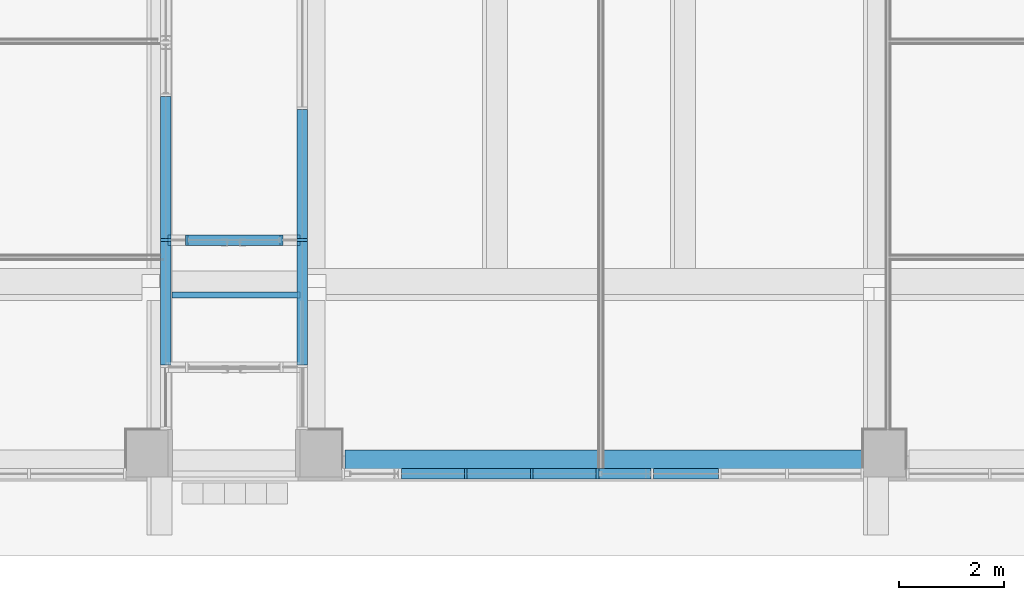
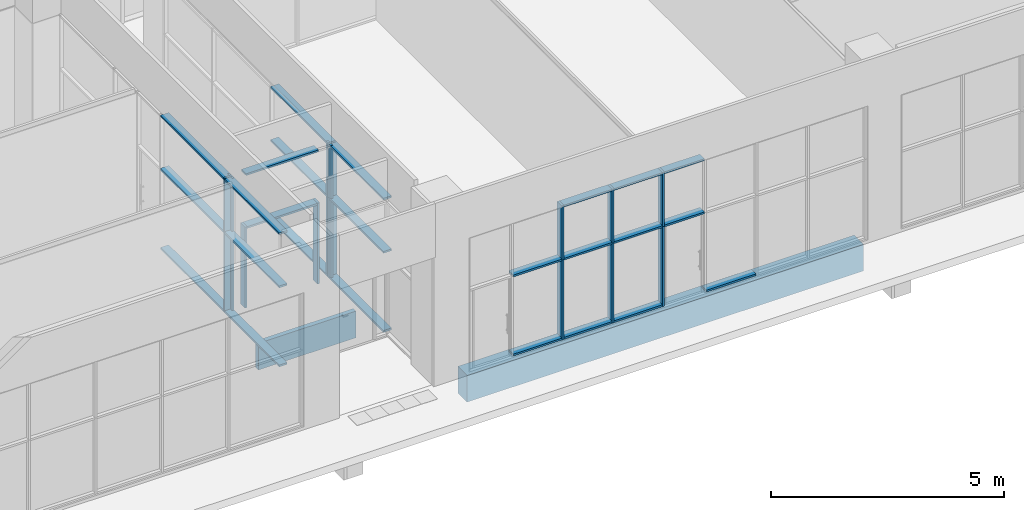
# One storey, part 5 of 100: 41 members, 2 beams, 4 elements without a shape of their own.
"""IFC2X3 building model written with IfcOpenShell, lengths in millimetres."""

import ifcopenshell
import ifcopenshell.guid

model = None  # the IFC model being written
_history = None  # IfcOwnerHistory: only IFC2X3 demands one
_inside = {}  # id of a spatial element -> (the spatial element, [elements in it])
_under = {}  # id of a project, library or spatial element -> (it, [spatial elements below it])
_declared = {}  # id of a project -> (the project, [libraries it declares])
_typed = {}  # id of a type object -> (the type object, [elements of that type])
_made_of = {}  # id of a material, layer set ... -> (it, [elements and type objects made of it])


def new_model(schema):
    """Start an empty IFC model of exactly this schema.

    Asked for "IFC4X3", IfcOpenShell would pick the latest addendum, in which some entities
    have other attributes; the version numbers below select the first issue.
    IFC2X3 requires an IfcOwnerHistory on every rooted entity: one is made here for all.
    """
    global model, _history
    if schema == "IFC4X3":
        model = ifcopenshell.file(schema_version=(4, 3, 0, 0))
    else:
        model = ifcopenshell.file(schema=schema)
    _inside.clear()
    _under.clear()
    _declared.clear()
    _typed.clear()
    _made_of.clear()
    _history = None
    if model.schema == "IFC2X3":
        org = make("IfcOrganization", Name="unknown")
        user = make(
            "IfcPersonAndOrganization",
            ThePerson=make("IfcPerson", FamilyName="unknown"),
            TheOrganization=org,
        )
        app = make(
            "IfcApplication",
            ApplicationDeveloper=org,
            Version="unknown",
            ApplicationFullName="unknown",
            ApplicationIdentifier="unknown",
        )
        _history = make(
            "IfcOwnerHistory",
            OwningUser=user,
            OwningApplication=app,
            ChangeAction="ADDED",
            CreationDate=0,
        )
    return model


def make(cls, **values):
    """One entity of the class cls with the attributes given. An attribute that is None is left unset."""
    return model.create_entity(
        cls, **{name: value for name, value in values.items() if value is not None}
    )


def entity(cls, *values):
    """Any entity or typed value of the class cls, its attributes in the order of the schema. None: left unset."""
    e = model.create_entity(cls)
    for i, value in enumerate(values):
        if value is not None:
            e[i] = value
    return e


def rooted(cls, **values):
    """An entity with a GlobalId (a new one), such as an element, a storey or a relation."""
    return make(cls, GlobalId=ifcopenshell.guid.new(), OwnerHistory=_history, **values)


def si_unit(unit_type, name, prefix=None):
    """IfcSIUnit, for example si_unit("LENGTHUNIT", "METRE", prefix="MILLI")."""
    return make("IfcSIUnit", UnitType=unit_type, Prefix=prefix, Name=name)


def converted_unit(unit_type, name, factor, base, dimensions=None, offset=None):
    """IfcConversionBasedUnit, such as the inch: factor (a typed value) times the base unit."""
    return make(
        "IfcConversionBasedUnit"
        if offset is None
        else "IfcConversionBasedUnitWithOffset",
        ConversionOffset=offset,
        Dimensions=None
        if dimensions is None
        else entity("IfcDimensionalExponents", *dimensions),
        UnitType=unit_type,
        Name=name,
        ConversionFactor=make(
            "IfcMeasureWithUnit", ValueComponent=factor, UnitComponent=base
        ),
    )


def derived_unit(unit_type, elements):
    """IfcDerivedUnit: a product of units, each with its exponent."""
    return make(
        "IfcDerivedUnit",
        Elements=[
            make("IfcDerivedUnitElement", Unit=unit, Exponent=power)
            for unit, power in elements
        ],
        UnitType=unit_type,
    )


def assignment(units):
    """IfcUnitAssignment: the units of a project."""
    return None if units is None else make("IfcUnitAssignment", Units=units)


def point(xyz):
    """IfcCartesianPoint."""
    return None if xyz is None else make("IfcCartesianPoint", Coordinates=xyz)


def direction(xyz):
    """IfcDirection."""
    return None if xyz is None else make("IfcDirection", DirectionRatios=xyz)


def frame(location, z_axis=None, x_axis=None):
    """IfcAxis2Placement3D, a coordinate frame: its origin and axes. An axis left out is left unset."""
    return make(
        "IfcAxis2Placement3D",
        Location=point(location),
        Axis=direction(z_axis),
        RefDirection=direction(x_axis),
    )


def frame_2d(location, x_axis=None):
    """IfcAxis2Placement2D, a coordinate frame in the plane: its origin and x axis."""
    return make(
        "IfcAxis2Placement2D", Location=point(location), RefDirection=direction(x_axis)
    )


def origin():
    """The frame at (0, 0, 0) with its axes left unset."""
    return frame((0.0, 0.0, 0.0))


def origin_2d_with_axis():
    """The frame at (0, 0) in the plane with the x axis (1, 0) written out."""
    return frame_2d((0.0, 0.0), x_axis=(1.0, 0.0))


def place(relative_to, where):
    """IfcLocalPlacement: puts the frame where relative to a parent placement (None: the world)."""
    return make(
        "IfcLocalPlacement", PlacementRelTo=relative_to, RelativePlacement=where
    )


def context(
    kind, dimensions, precision=None, world=None, true_north=None, identifier=None
):
    """IfcGeometricRepresentationContext, for example the 3D "Model" context."""
    return make(
        "IfcGeometricRepresentationContext",
        ContextIdentifier=identifier,
        ContextType=kind,
        CoordinateSpaceDimension=dimensions,
        Precision=precision,
        WorldCoordinateSystem=world,
        TrueNorth=true_north,
    )


def subcontext(parent, identifier, kind, view, scale=None):
    """IfcGeometricRepresentationSubContext, for example "Body" below "Model"."""
    return make(
        "IfcGeometricRepresentationSubContext",
        ContextIdentifier=identifier,
        ContextType=kind,
        ParentContext=parent,
        TargetScale=scale,
        TargetView=view,
    )


def project(units=None, contexts=None):
    """IfcProject with its units and contexts."""
    return rooted(
        "IfcProject",
        Name="project",
        RepresentationContexts=contexts,
        UnitsInContext=assignment(units),
    )


def spatial(cls, under=None, at=None, **own):
    """A site, building, storey or space (cls), placed at a placement, below another one or the project."""
    s = rooted(cls, ObjectPlacement=at, **own)
    if under is not None:
        _under.setdefault(under.id(), (under, []))[1].append(s)
    return s


def profile(cls, at=None, kind="AREA", **sizes):
    """A parametric profile (cls). Its sizes go by their IFC names, for example OverallWidth=200.0."""
    return make(cls, ProfileType=kind, Position=at, **sizes)


def rectangle(**sizes):
    """IfcRectangleProfileDef."""
    return profile("IfcRectangleProfileDef", **sizes)


def extrude(swept, where, along, depth):
    """IfcExtrudedAreaSolid: the profile swept, set in the frame where, extruded along a direction by depth."""
    return make(
        "IfcExtrudedAreaSolid",
        SweptArea=swept,
        Position=where,
        ExtrudedDirection=direction(along),
        Depth=depth,
    )


def shape(context_of_items, identifier, shape_type, items):
    """IfcShapeRepresentation: the items that make up one representation, for example the "Body"."""
    return make(
        "IfcShapeRepresentation",
        ContextOfItems=context_of_items,
        RepresentationIdentifier=identifier,
        RepresentationType=shape_type,
        Items=items,
    )


def source(mapping_origin, context_of_items, identifier, shape_type, items):
    """IfcRepresentationMap: a shape defined once, which mapped items show again and again."""
    return make(
        "IfcRepresentationMap",
        MappingOrigin=mapping_origin,
        MappedRepresentation=shape(context_of_items, identifier, shape_type, items),
    )


def transform(
    local_origin,
    x_axis=None,
    y_axis=None,
    z_axis=None,
    scale=None,
    scale2=None,
    scale3=None,
    uniform=True,
):
    """IfcCartesianTransformationOperator3D, or its non-uniform kind. x_axis, y_axis, z_axis: its Axis1, 2, 3."""
    if uniform:
        return make(
            "IfcCartesianTransformationOperator3D",
            Axis1=direction(x_axis),
            Axis2=direction(y_axis),
            LocalOrigin=point(local_origin),
            Scale=scale,
            Axis3=direction(z_axis),
        )
    return make(
        "IfcCartesianTransformationOperator3DnonUniform",
        Axis1=direction(x_axis),
        Axis2=direction(y_axis),
        LocalOrigin=point(local_origin),
        Scale=scale,
        Axis3=direction(z_axis),
        Scale2=scale2,
        Scale3=scale3,
    )


def mapped(mapping_source, mapping_target):
    """IfcMappedItem: shows the shape of a source again, moved by a transform."""
    return make(
        "IfcMappedItem", MappingSource=mapping_source, MappingTarget=mapping_target
    )


def material(Name=None, Category=None):
    """IfcMaterial."""
    return make("IfcMaterial", Name=Name, Category=Category)


def made_of(thing, what):
    """Note that an element or type object is made of a material, layer set ...; save() writes the relation."""
    if what is not None:
        _made_of.setdefault(what.id(), (what, []))[1].append(thing)
    return thing


def type_object(cls, material=None, **own):
    """A type object (cls), such as IfcWallType, which elements share."""
    return made_of(rooted(cls, **own), material)


def type_shapes(of_type, sources):
    """Give a type object the sources (RepresentationMaps) that its elements show as mapped items."""
    of_type.RepresentationMaps = sources


def element(
    cls,
    number,
    at=None,
    inside=None,
    cuts=None,
    type_object=None,
    material=None,
    context=None,
    identifier="Body",
    shape_type=None,
    held_by="IfcProductDefinitionShape",
    body=None,
    shapes=None,
    **own,
):
    """One element of the class cls, such as IfcWall. Its Tag is "e" and its number.

    at: its placement. inside: the storey or other place that contains it. cuts: it is an
    opening in that element (IfcRelVoidsElement). A single representation is given by context,
    identifier, shape_type and body (its items); several are given by shapes. held_by: the class
    of the entity that holds the representations. save() writes the other relations.
    """
    e = rooted(cls, Tag="e%d" % number, ObjectPlacement=at, **own)
    if body is not None:
        shapes = [shape(context, identifier, shape_type, body)]
    if shapes is not None:
        e.Representation = make(held_by, Representations=shapes)
    if inside is not None:
        _inside.setdefault(inside.id(), (inside, []))[1].append(e)
    if cuts is not None:
        rooted(
            "IfcRelVoidsElement", RelatingBuildingElement=cuts, RelatedOpeningElement=e
        )
    if type_object is not None:
        _typed.setdefault(type_object.id(), (type_object, []))[1].append(e)
    return made_of(e, material)


def aggregate(whole, parts):
    """IfcRelAggregates: a whole, such as a stair, and the parts it consists of."""
    return rooted("IfcRelAggregates", RelatingObject=whole, RelatedObjects=parts)


def save(model, path):
    """Write the relations noted so far, then the file.

    IfcRelAggregates (storeys below a building ...), IfcRelContainedInSpatialStructure (elements
    in a storey), IfcRelDefinesByType, IfcRelAssociatesMaterial and IfcRelDeclares: one each for
    every whole, place, type object, material and project.
    """
    for whole, parts in _under.values():
        aggregate(whole, parts)
    for where, things in _inside.values():
        rooted(
            "IfcRelContainedInSpatialStructure",
            RelatedElements=things,
            RelatingStructure=where,
        )
    for kind, things in _typed.values():
        rooted("IfcRelDefinesByType", RelatedObjects=things, RelatingType=kind)
    for what, things in _made_of.values():
        rooted("IfcRelAssociatesMaterial", RelatedObjects=things, RelatingMaterial=what)
    for by, libraries in _declared.values():
        rooted("IfcRelDeclares", RelatingContext=by, RelatedDefinitions=libraries)
    model.write(path)


model = new_model("IFC2X3")

# Units and contexts
model_context = context("Model", 3, precision=0.01, world=origin(), true_north=direction((6.123031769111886e-17, 1.0)))
body_context = subcontext(model_context, "Body", "Model", "MODEL_VIEW")
ifc_project = project(units=[si_unit("LENGTHUNIT", "METRE", prefix="MILLI"), si_unit("AREAUNIT", "SQUARE_METRE"), si_unit("VOLUMEUNIT", "CUBIC_METRE"), converted_unit("PLANEANGLEUNIT", "DEGREE", entity("IfcRatioMeasure", 0.017453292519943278), si_unit("PLANEANGLEUNIT", "RADIAN"), dimensions=[0, 0, 0, 0, 0, 0, 0]), si_unit("MASSUNIT", "GRAM", prefix="KILO"), derived_unit("MASSDENSITYUNIT", [(si_unit("MASSUNIT", "GRAM", prefix="KILO"), 1), (si_unit("LENGTHUNIT", "METRE"), -3)]), derived_unit("MOMENTOFINERTIAUNIT", [(si_unit("LENGTHUNIT", "METRE"), 4)]), si_unit("TIMEUNIT", "SECOND"), si_unit("FREQUENCYUNIT", "HERTZ"), si_unit("THERMODYNAMICTEMPERATUREUNIT", "DEGREE_CELSIUS"), derived_unit("THERMALTRANSMITTANCEUNIT", [(si_unit("MASSUNIT", "GRAM", prefix="KILO"), 1), (si_unit("THERMODYNAMICTEMPERATUREUNIT", "KELVIN"), -1), (si_unit("TIMEUNIT", "SECOND"), -3)]), derived_unit("VOLUMETRICFLOWRATEUNIT", [(si_unit("LENGTHUNIT", "METRE"), 3), (si_unit("TIMEUNIT", "SECOND"), -1)]), derived_unit("MASSFLOWRATEUNIT", [(si_unit("MASSUNIT", "GRAM", prefix="KILO"), 1), (si_unit("TIMEUNIT", "SECOND"), -1)]), derived_unit("ROTATIONALFREQUENCYUNIT", [(si_unit("TIMEUNIT", "SECOND"), -1)]), si_unit("ELECTRICCURRENTUNIT", "AMPERE"), si_unit("ELECTRICVOLTAGEUNIT", "VOLT"), si_unit("POWERUNIT", "WATT"), si_unit("FORCEUNIT", "NEWTON", prefix="KILO"), si_unit("ILLUMINANCEUNIT", "LUX"), si_unit("LUMINOUSFLUXUNIT", "LUMEN"), si_unit("LUMINOUSINTENSITYUNIT", "CANDELA"), derived_unit("USERDEFINED", [(si_unit("MASSUNIT", "GRAM", prefix="KILO"), -1), (si_unit("LENGTHUNIT", "METRE"), -2), (si_unit("TIMEUNIT", "SECOND"), 3), (si_unit("LUMINOUSFLUXUNIT", "LUMEN"), 1)]), derived_unit("SOUNDPOWERUNIT", [(si_unit("MASSUNIT", "GRAM", prefix="KILO"), 1), (si_unit("LENGTHUNIT", "METRE"), 2), (si_unit("TIMEUNIT", "SECOND"), -3)]), derived_unit("SOUNDPRESSUREUNIT", [(si_unit("MASSUNIT", "GRAM", prefix="KILO"), 1), (si_unit("LENGTHUNIT", "METRE"), -1), (si_unit("TIMEUNIT", "SECOND"), -2)]), derived_unit("LINEARVELOCITYUNIT", [(si_unit("LENGTHUNIT", "METRE"), 1), (si_unit("TIMEUNIT", "SECOND"), -1)]), si_unit("PRESSUREUNIT", "PASCAL"), derived_unit("USERDEFINED", [(si_unit("LENGTHUNIT", "METRE"), -2), (si_unit("MASSUNIT", "GRAM", prefix="KILO"), 1), (si_unit("TIMEUNIT", "SECOND"), -2)]), derived_unit("LINEARFORCEUNIT", [(si_unit("MASSUNIT", "GRAM", prefix="KILO"), 1), (si_unit("LENGTHUNIT", "METRE"), 1), (si_unit("TIMEUNIT", "SECOND"), -2), (si_unit("LENGTHUNIT", "METRE"), -1)]), derived_unit("PLANARFORCEUNIT", [(si_unit("MASSUNIT", "GRAM", prefix="KILO"), 1), (si_unit("LENGTHUNIT", "METRE"), 1), (si_unit("TIMEUNIT", "SECOND"), -2), (si_unit("LENGTHUNIT", "METRE"), -2)])], contexts=[model_context])

# Site, building, storey
site_placement = place(None, frame((-14167.972527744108, -657.2125860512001, 0.0)))
site = spatial("IfcSite", under=ifc_project, at=site_placement, Name="Default", CompositionType="ELEMENT")
building_placement = place(site_placement, origin())
building = spatial("IfcBuilding", under=site, at=building_placement, Name="Sample Building", CompositionType="ELEMENT")
storey_placement = place(building_placement, origin())
storey = spatial("IfcBuildingStorey", under=building, at=storey_placement, Name="지상 1층", CompositionType="ELEMENT", Elevation=0.0)

# Curtain wall, members
curtain_wall_type = type_object("IfcCurtainWallType", Name="커튼월:CW112-스테인리스 스틸 커튼월", PredefinedType="NOTDEFINED")
curtain_wall_1_placement = place(storey_placement, origin())
curtain_wall_1 = element("IfcCurtainWall", 1, at=curtain_wall_1_placement, inside=storey, type_object=curtain_wall_type, Name="커튼월:CW112-스테인리스 스틸 커튼월", ObjectType="커튼월:CW112-스테인리스 스틸 커튼월")
ifc_material_1 = material(Name="<Unnamed>")
member_type_1 = type_object("IfcMemberType", Name="직사각형 멀리언:CW200-직사각형 멀리언 50x200mm", PredefinedType="MULLION", material=ifc_material_1)
shared_shape_1 = source(origin(), body_context, "Body", "SweptSolid", [
    extrude(rectangle(XDim=200.0, YDim=50.0, at=origin_2d_with_axis()), frame((0.0, 0.0, -2100.0), z_axis=(0.0, 0.0, 1.0), x_axis=(0.0, -1.0, 0.0)), (0.0, 0.0, 1.0), 2100.0),
])
type_shapes(member_type_1, [shared_shape_1])
member_1_placement = place(curtain_wall_1_placement, frame((33217.97249113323, 619.7122951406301, 80.0), z_axis=(0.0, 0.0, -1.0), x_axis=(1.0, 0.0, 0.0)))
member_1 = element("IfcMember", 2, at=member_1_placement, type_object=member_type_1, material=ifc_material_1, Name="직사각형 멀리언:CW200-직사각형 멀리언 50x200mm", ObjectType="직사각형 멀리언:CW200-직사각형 멀리언 50x200mm", context=body_context, shape_type="MappedRepresentation", body=[
    mapped(shared_shape_1, transform((0.0, 0.0, 0.0), scale=1.0)),
])
member_2_placement = place(curtain_wall_1_placement, frame((34467.97249113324, 619.712295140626, 80.0), z_axis=(0.0, 0.0, -1.0), x_axis=(1.0, 0.0, 0.0)))
member_2 = element("IfcMember", 3, at=member_2_placement, type_object=member_type_1, material=ifc_material_1, Name="직사각형 멀리언:CW200-직사각형 멀리언 50x200mm", ObjectType="직사각형 멀리언:CW200-직사각형 멀리언 50x200mm", context=body_context, shape_type="MappedRepresentation", body=[
    mapped(shared_shape_1, transform((0.0, 0.0, 0.0), scale=1.0)),
])
member_3_placement = place(curtain_wall_1_placement, frame((35717.97249113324, 619.712295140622, 80.0), z_axis=(0.0, 0.0, -1.0), x_axis=(1.0, 0.0, 0.0)))
member_3 = element("IfcMember", 4, at=member_3_placement, type_object=member_type_1, material=ifc_material_1, Name="직사각형 멀리언:CW200-직사각형 멀리언 50x200mm", ObjectType="직사각형 멀리언:CW200-직사각형 멀리언 50x200mm", context=body_context, shape_type="MappedRepresentation", body=[
    mapped(shared_shape_1, transform((0.0, 0.0, 0.0), scale=1.0)),
])

# Curtain wall, member
curtain_wall_2_placement = place(storey_placement, origin())
curtain_wall_2 = element("IfcCurtainWall", 5, at=curtain_wall_2_placement, inside=storey, type_object=curtain_wall_type, Name="커튼월:CW112-스테인리스 스틸 커튼월", ObjectType="커튼월:CW112-스테인리스 스틸 커튼월")
member_4_placement = place(curtain_wall_2_placement, frame((27522.955141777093, 5057.212330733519, 80.0), z_axis=(0.0, 0.0, -1.0), x_axis=(0.0, 1.0, 0.0)))
member_4 = element("IfcMember", 6, at=member_4_placement, type_object=member_type_1, material=ifc_material_1, Name="직사각형 멀리언:CW200-직사각형 멀리언 50x200mm", ObjectType="직사각형 멀리언:CW200-직사각형 멀리언 50x200mm", context=body_context, shape_type="MappedRepresentation", body=[
    mapped(shared_shape_1, transform((0.0, 0.0, 0.0), scale=1.0)),
])

curtain_wall_3_placement = place(storey_placement, origin())
curtain_wall_3 = element("IfcCurtainWall", 7, at=curtain_wall_3_placement, inside=storey, type_object=curtain_wall_type, Name="커튼월:CW112-스테인리스 스틸 커튼월", ObjectType="커튼월:CW112-스테인리스 스틸 커튼월")
member_5_placement = place(curtain_wall_3_placement, frame((30112.972491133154, 5057.212330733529, 80.0), z_axis=(0.0, 0.0, -1.0), x_axis=(0.0, -1.0, 0.0)))
member_5 = element("IfcMember", 8, at=member_5_placement, type_object=member_type_1, material=ifc_material_1, Name="직사각형 멀리언:CW200-직사각형 멀리언 50x200mm", ObjectType="직사각형 멀리언:CW200-직사각형 멀리언 50x200mm", context=body_context, shape_type="MappedRepresentation", body=[
    mapped(shared_shape_1, transform((0.0, 0.0, 0.0), scale=1.0)),
])

# Member
member_type_2 = type_object("IfcMemberType", Name="직사각형 멀리언:CW200-직사각형 멀리언 50x200mm", PredefinedType="MULLION", material=ifc_material_1)
shared_shape_2 = source(origin(), body_context, "Body", "SweptSolid", [
    extrude(rectangle(XDim=200.0, YDim=50.0, at=origin_2d_with_axis()), frame((0.0, 0.0, -1420.0), z_axis=(0.0, 0.0, 1.0), x_axis=(0.0, -1.0, 0.0)), (0.0, 0.0, 1.0), 1420.0000000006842),
])
type_shapes(member_type_2, [shared_shape_2])
member_6_placement = place(curtain_wall_1_placement, frame((33217.97249113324, 619.7122951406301, 2180.0), z_axis=(0.0, 0.0, -1.0), x_axis=(1.0, 0.0, 0.0)))
member_6 = element("IfcMember", 9, at=member_6_placement, type_object=member_type_2, material=ifc_material_1, Name="직사각형 멀리언:CW200-직사각형 멀리언 50x200mm", ObjectType="직사각형 멀리언:CW200-직사각형 멀리언 50x200mm", context=body_context, shape_type="MappedRepresentation", body=[
    mapped(shared_shape_2, transform((0.0, 0.0, 0.0), scale=1.0)),
])

member_7_placement = place(curtain_wall_1_placement, frame((34467.97249113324, 619.712295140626, 2180.0), z_axis=(0.0, 0.0, -1.0), x_axis=(1.0, 0.0, 0.0)))
member_7 = element("IfcMember", 10, at=member_7_placement, type_object=member_type_2, material=ifc_material_1, Name="직사각형 멀리언:CW200-직사각형 멀리언 50x200mm", ObjectType="직사각형 멀리언:CW200-직사각형 멀리언 50x200mm", context=body_context, shape_type="MappedRepresentation", body=[
    mapped(shared_shape_2, transform((0.0, 0.0, 0.0), scale=1.0)),
])

member_8_placement = place(curtain_wall_1_placement, frame((35717.97249113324, 619.712295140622, 2180.0), z_axis=(0.0, 0.0, -1.0), x_axis=(1.0, 0.0, 0.0)))
member_8 = element("IfcMember", 11, at=member_8_placement, type_object=member_type_2, material=ifc_material_1, Name="직사각형 멀리언:CW200-직사각형 멀리언 50x200mm", ObjectType="직사각형 멀리언:CW200-직사각형 멀리언 50x200mm", context=body_context, shape_type="MappedRepresentation", body=[
    mapped(shared_shape_2, transform((0.0, 0.0, 0.0), scale=1.0)),
])

member_9_placement = place(curtain_wall_2_placement, frame((27522.955141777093, 5057.212330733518, 2180.0), z_axis=(0.0, 0.0, -1.0), x_axis=(0.0, 1.0, 0.0)))
member_9 = element("IfcMember", 12, at=member_9_placement, type_object=member_type_2, material=ifc_material_1, Name="직사각형 멀리언:CW200-직사각형 멀리언 50x200mm", ObjectType="직사각형 멀리언:CW200-직사각형 멀리언 50x200mm", context=body_context, shape_type="MappedRepresentation", body=[
    mapped(shared_shape_2, transform((0.0, 0.0, 0.0), scale=1.0)),
])

member_10_placement = place(curtain_wall_3_placement, frame((30112.972491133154, 5057.212330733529, 2180.0), z_axis=(0.0, 0.0, -1.0), x_axis=(0.0, -1.0, 0.0)))
member_10 = element("IfcMember", 13, at=member_10_placement, type_object=member_type_2, material=ifc_material_1, Name="직사각형 멀리언:CW200-직사각형 멀리언 50x200mm", ObjectType="직사각형 멀리언:CW200-직사각형 멀리언 50x200mm", context=body_context, shape_type="MappedRepresentation", body=[
    mapped(shared_shape_2, transform((0.0, 0.0, 0.0), scale=1.0)),
])

member_type_3 = type_object("IfcMemberType", Name="직사각형 멀리언:CW200-직사각형 멀리언 50x200mm", PredefinedType="MULLION", material=ifc_material_1)
shared_shape_3 = source(origin(), body_context, "Body", "SweptSolid", [
    extrude(rectangle(XDim=200.0, YDim=50.0, at=origin_2d_with_axis()), frame((-25.0, 0.0, -1200.0), z_axis=(0.0, 0.0, 1.0), x_axis=(0.0, -1.0, 0.0)), (0.0, 0.0, 1.0), 1200.0000000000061),
])
type_shapes(member_type_3, [shared_shape_3])
member_11_placement = place(curtain_wall_1_placement, frame((34442.97249113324, 619.7122951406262, 3600.0), z_axis=(1.0, 0.0, 0.0), x_axis=(0.0, 0.0, 1.0)))
member_11 = element("IfcMember", 14, at=member_11_placement, type_object=member_type_3, material=ifc_material_1, Name="직사각형 멀리언:CW200-직사각형 멀리언 50x200mm", ObjectType="직사각형 멀리언:CW200-직사각형 멀리언 50x200mm", context=body_context, shape_type="MappedRepresentation", body=[
    mapped(shared_shape_3, transform((0.0, 0.0, 0.0), scale=1.0)),
])

member_12_placement = place(curtain_wall_1_placement, frame((35692.972491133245, 619.7122951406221, 3600.0), z_axis=(1.0, 0.0, 0.0), x_axis=(0.0, 0.0, 1.0)))
member_12 = element("IfcMember", 15, at=member_12_placement, type_object=member_type_3, material=ifc_material_1, Name="직사각형 멀리언:CW200-직사각형 멀리언 50x200mm", ObjectType="직사각형 멀리언:CW200-직사각형 멀리언 50x200mm", context=body_context, shape_type="MappedRepresentation", body=[
    mapped(shared_shape_3, transform((0.0, 0.0, 0.0), scale=1.0)),
])

member_type_4 = type_object("IfcMemberType", Name="직사각형 멀리언:CW200-직사각형 멀리언 50x200mm", PredefinedType="MULLION", material=ifc_material_1)
shared_shape_4 = source(origin(), body_context, "Body", "SweptSolid", [
    extrude(rectangle(XDim=200.0, YDim=50.0, at=origin_2d_with_axis()), frame((-25.0, 0.0, -1200.0), z_axis=(0.0, 0.0, 1.0), x_axis=(0.0, -1.0, 0.0)), (0.0, 0.0, 1.0), 1200.0000000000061),
])
type_shapes(member_type_4, [shared_shape_4])
member_13_placement = place(curtain_wall_1_placement, frame((33242.97249113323, 619.71229514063, 80.0), z_axis=(-1.0, 0.0, 0.0), x_axis=(0.0, 0.0, -1.0)))
member_13 = element("IfcMember", 16, at=member_13_placement, type_object=member_type_4, material=ifc_material_1, Name="직사각형 멀리언:CW200-직사각형 멀리언 50x200mm", ObjectType="직사각형 멀리언:CW200-직사각형 멀리언 50x200mm", context=body_context, shape_type="MappedRepresentation", body=[
    mapped(shared_shape_4, transform((0.0, 0.0, 0.0), scale=1.0)),
])

member_14_placement = place(curtain_wall_1_placement, frame((31992.972491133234, 619.7122951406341, 80.0), z_axis=(-1.0, 0.0, 0.0), x_axis=(0.0, 0.0, -1.0)))
member_14 = element("IfcMember", 17, at=member_14_placement, type_object=member_type_4, material=ifc_material_1, Name="직사각형 멀리언:CW200-직사각형 멀리언 50x200mm", ObjectType="직사각형 멀리언:CW200-직사각형 멀리언 50x200mm", context=body_context, shape_type="MappedRepresentation", body=[
    mapped(shared_shape_4, transform((0.0, 0.0, 0.0), scale=1.0)),
])

member_15_placement = place(curtain_wall_1_placement, frame((34492.97249113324, 619.7122951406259, 80.0), z_axis=(-1.0, 0.0, 0.0), x_axis=(0.0, 0.0, -1.0)))
member_15 = element("IfcMember", 18, at=member_15_placement, type_object=member_type_4, material=ifc_material_1, Name="직사각형 멀리언:CW200-직사각형 멀리언 50x200mm", ObjectType="직사각형 멀리언:CW200-직사각형 멀리언 50x200mm", context=body_context, shape_type="MappedRepresentation", body=[
    mapped(shared_shape_4, transform((0.0, 0.0, 0.0), scale=1.0)),
])

member_type_5 = type_object("IfcMemberType", Name="직사각형 멀리언:CW200-직사각형 멀리언 50x200mm", PredefinedType="MULLION", material=ifc_material_1)
shared_shape_5 = source(origin(), body_context, "Body", "SweptSolid", [
    extrude(rectangle(XDim=200.0, YDim=50.0, at=origin_2d_with_axis()), frame((0.0, 0.0, -1200.0), z_axis=(0.0, 0.0, 1.0), x_axis=(0.0, -1.0, 0.0)), (0.0, 0.0, 1.0), 1200.0000000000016),
])
type_shapes(member_type_5, [shared_shape_5])
member_16_placement = place(curtain_wall_1_placement, frame((34442.97249113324, 619.7122951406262, 2180.0), z_axis=(1.0, 0.0, 0.0), x_axis=(0.0, 0.0, 1.0)))
member_16 = element("IfcMember", 19, at=member_16_placement, type_object=member_type_5, material=ifc_material_1, Name="직사각형 멀리언:CW200-직사각형 멀리언 50x200mm", ObjectType="직사각형 멀리언:CW200-직사각형 멀리언 50x200mm", context=body_context, shape_type="MappedRepresentation", body=[
    mapped(shared_shape_5, transform((0.0, 0.0, 0.0), scale=1.0)),
])

member_17_placement = place(curtain_wall_1_placement, frame((33192.97249113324, 619.7122951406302, 2180.0), z_axis=(1.0, 0.0, 0.0), x_axis=(0.0, 0.0, 1.0)))
member_17 = element("IfcMember", 20, at=member_17_placement, type_object=member_type_5, material=ifc_material_1, Name="직사각형 멀리언:CW200-직사각형 멀리언 50x200mm", ObjectType="직사각형 멀리언:CW200-직사각형 멀리언 50x200mm", context=body_context, shape_type="MappedRepresentation", body=[
    mapped(shared_shape_5, transform((0.0, 0.0, 0.0), scale=1.0)),
])

member_18_placement = place(curtain_wall_1_placement, frame((35692.972491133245, 619.7122951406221, 2180.0), z_axis=(1.0, 0.0, 0.0), x_axis=(0.0, 0.0, 1.0)))
member_18 = element("IfcMember", 21, at=member_18_placement, type_object=member_type_5, material=ifc_material_1, Name="직사각형 멀리언:CW200-직사각형 멀리언 50x200mm", ObjectType="직사각형 멀리언:CW200-직사각형 멀리언 50x200mm", context=body_context, shape_type="MappedRepresentation", body=[
    mapped(shared_shape_5, transform((0.0, 0.0, 0.0), scale=1.0)),
])

member_type_6 = type_object("IfcMemberType", Name="직사각형 멀리언:CW200-직사각형 멀리언 50x200mm", PredefinedType="MULLION", material=ifc_material_1)
shared_shape_6 = source(origin(), body_context, "Body", "SweptSolid", [
    extrude(rectangle(XDim=200.0, YDim=50.0, at=origin_2d_with_axis()), frame((0.0, 0.0, -990.0), z_axis=(0.0, 0.0, 1.0), x_axis=(0.0, -1.0, 0.0)), (0.0, 0.0, 1.0), 990.0000000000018),
])
type_shapes(member_type_6, [shared_shape_6])
member_19_placement = place(curtain_wall_1_placement, frame((36732.972491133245, 619.7122951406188, 2180.0), z_axis=(1.0, 0.0, 0.0), x_axis=(0.0, 0.0, 1.0)))
member_19 = element("IfcMember", 22, at=member_19_placement, type_object=member_type_6, material=ifc_material_1, Name="직사각형 멀리언:CW200-직사각형 멀리언 50x200mm", ObjectType="직사각형 멀리언:CW200-직사각형 멀리언 50x200mm", context=body_context, shape_type="MappedRepresentation", body=[
    mapped(shared_shape_6, transform((0.0, 0.0, 0.0), scale=1.0)),
])

member_type_7 = type_object("IfcMemberType", Name="직사각형 멀리언:CW200-직사각형 멀리언 50x200mm", PredefinedType="MULLION", material=ifc_material_1)
shared_shape_7 = source(origin(), body_context, "Body", "SweptSolid", [
    extrude(rectangle(XDim=200.0, YDim=50.0, at=origin_2d_with_axis()), frame((-25.0, 0.0, -990.0), z_axis=(0.0, 0.0, 1.0), x_axis=(0.0, -1.0, 0.0)), (0.0, 0.0, 1.0), 990.0000000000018),
])
type_shapes(member_type_7, [shared_shape_7])
member_20_placement = place(curtain_wall_1_placement, frame((36732.972491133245, 619.7122951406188, 3600.0), z_axis=(1.0, 0.0, 0.0), x_axis=(0.0, 0.0, 1.0)))
member_20 = element("IfcMember", 23, at=member_20_placement, type_object=member_type_7, material=ifc_material_1, Name="직사각형 멀리언:CW200-직사각형 멀리언 50x200mm", ObjectType="직사각형 멀리언:CW200-직사각형 멀리언 50x200mm", context=body_context, shape_type="MappedRepresentation", body=[
    mapped(shared_shape_7, transform((0.0, 0.0, 0.0), scale=1.0)),
])

member_type_8 = type_object("IfcMemberType", Name="직사각형 멀리언:CW200-직사각형 멀리언 50x200mm", PredefinedType="MULLION", material=ifc_material_1)
shared_shape_8 = source(origin(), body_context, "Body", "SweptSolid", [
    extrude(rectangle(XDim=200.0, YDim=50.0, at=origin_2d_with_axis()), frame((-25.0, 0.0, -1230.0), z_axis=(0.0, 0.0, 1.0), x_axis=(0.0, -1.0, 0.0)), (0.0, 0.0, 1.0), 1229.9999999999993),
])
type_shapes(member_type_8, [shared_shape_8])
member_21_placement = place(curtain_wall_1_placement, frame((36782.972491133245, 619.7122951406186, 80.0), z_axis=(-1.0, 0.0, 0.0), x_axis=(0.0, 0.0, -1.0)))
member_21 = element("IfcMember", 24, at=member_21_placement, type_object=member_type_8, material=ifc_material_1, Name="직사각형 멀리언:CW200-직사각형 멀리언 50x200mm", ObjectType="직사각형 멀리언:CW200-직사각형 멀리언 50x200mm", context=body_context, shape_type="MappedRepresentation", body=[
    mapped(shared_shape_8, transform((0.0, 0.0, 0.0), scale=1.0)),
])

aggregate(curtain_wall_1, [member_13, member_1, member_16, member_6, member_14, member_17, member_11, member_15, member_18, member_2, member_7, member_12, member_19, member_3, member_8, member_20, member_21])

# Curtain wall, members
curtain_wall_4_placement = place(storey_placement, origin())
curtain_wall_4 = element("IfcCurtainWall", 25, at=curtain_wall_4_placement, inside=storey, type_object=curtain_wall_type, Name="커튼월:CW112-스테인리스 스틸 커튼월", ObjectType="커튼월:CW112-스테인리스 스틸 커튼월")
member_type_9 = type_object("IfcMemberType", Name="직사각형 멀리언:CW200-직사각형 멀리언 50x200mm", PredefinedType="MULLION", material=ifc_material_1)
shared_shape_9 = source(origin(), body_context, "Body", "SweptSolid", [
    extrude(rectangle(XDim=200.0, YDim=50.0, at=origin_2d_with_axis()), frame((-25.0, 0.0, -2100.0), z_axis=(0.0, 0.0, 1.0), x_axis=(0.0, -1.0, 0.0)), (0.0, 0.0, 1.0), 2100.0),
])
type_shapes(member_type_9, [shared_shape_9])
member_22_placement = place(curtain_wall_4_placement, frame((27567.955141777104, 5057.1776243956, 80.0), z_axis=(0.0, 0.0, -1.0), x_axis=(-1.0, 0.0, 0.0)))
member_22 = element("IfcMember", 26, at=member_22_placement, type_object=member_type_9, material=ifc_material_1, Name="직사각형 멀리언:CW200-직사각형 멀리언 50x200mm", ObjectType="직사각형 멀리언:CW200-직사각형 멀리언 50x200mm", context=body_context, shape_type="MappedRepresentation", body=[
    mapped(shared_shape_9, transform((0.0, 0.0, 0.0), scale=1.0)),
])
member_type_10 = type_object("IfcMemberType", Name="직사각형 멀리언:CW200-직사각형 멀리언 50x200mm", PredefinedType="MULLION", material=ifc_material_1)
shared_shape_10 = source(origin(), body_context, "Body", "SweptSolid", [
    extrude(rectangle(XDim=200.0, YDim=50.0, at=origin_2d_with_axis()), frame((-25.0, 0.0, -1799.9999120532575), z_axis=(0.0, 0.0, 1.0), x_axis=(0.0, -1.0, 0.0)), (0.0, 0.0, 1.0), 1799.9999120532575),
])
type_shapes(member_type_10, [shared_shape_10])
member_23_placement = place(curtain_wall_4_placement, frame((27918.072915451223, 5057.177624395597, 3600.0), z_axis=(-1.0, 0.0, 0.0), x_axis=(0.0, 0.0, 1.0)))
member_23 = element("IfcMember", 27, at=member_23_placement, type_object=member_type_10, material=ifc_material_1, Name="직사각형 멀리언:CW200-직사각형 멀리언 50x200mm", ObjectType="직사각형 멀리언:CW200-직사각형 멀리언 50x200mm", context=body_context, shape_type="MappedRepresentation", body=[
    mapped(shared_shape_10, transform((0.0, 0.0, 0.0), scale=1.0)),
])
member_type_11 = type_object("IfcMemberType", Name="직사각형 멀리언:CW200-직사각형 멀리언 50x200mm", PredefinedType="MULLION", material=ifc_material_1)
shared_shape_11 = source(origin(), body_context, "Body", "SweptSolid", [
    extrude(rectangle(XDim=200.0, YDim=50.0, at=origin_2d_with_axis()), frame((0.0, 0.0, -2125.0), z_axis=(0.0, 0.0, 1.0), x_axis=(0.0, -1.0, 0.0)), (0.0, 0.0, 1.0), 2125.0),
])
type_shapes(member_type_11, [shared_shape_11])
member_24_placement = place(curtain_wall_4_placement, frame((27918.072915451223, 5057.177624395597, 80.0), z_axis=(0.0, 0.0, -1.0), x_axis=(-1.0, 0.0, 0.0)))
member_24 = element("IfcMember", 28, at=member_24_placement, type_object=member_type_11, material=ifc_material_1, Name="직사각형 멀리언:CW200-직사각형 멀리언 50x200mm", ObjectType="직사각형 멀리언:CW200-직사각형 멀리언 50x200mm", context=body_context, shape_type="MappedRepresentation", body=[
    mapped(shared_shape_11, transform((0.0, 0.0, 0.0), scale=1.0)),
])
member_25_placement = place(curtain_wall_4_placement, frame((29718.072915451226, 5057.177624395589, 80.0), z_axis=(0.0, 0.0, -1.0), x_axis=(-1.0, 0.0, 0.0)))
member_25 = element("IfcMember", 29, at=member_25_placement, type_object=member_type_11, material=ifc_material_1, Name="직사각형 멀리언:CW200-직사각형 멀리언 50x200mm", ObjectType="직사각형 멀리언:CW200-직사각형 멀리언 50x200mm", context=body_context, shape_type="MappedRepresentation", body=[
    mapped(shared_shape_11, transform((0.0, 0.0, 0.0), scale=1.0)),
])
member_type_12 = type_object("IfcMemberType", Name="직사각형 멀리언:CW200-직사각형 멀리언 50x200mm", PredefinedType="MULLION", material=ifc_material_1)
shared_shape_12 = source(origin(), body_context, "Body", "SweptSolid", [
    extrude(rectangle(XDim=200.0, YDim=50.0, at=origin_2d_with_axis()), frame((-25.0, 0.0, -2100.0), z_axis=(0.0, 0.0, 1.0), x_axis=(0.0, -1.0, 0.0)), (0.0, 0.0, 1.0), 2100.0),
])
type_shapes(member_type_12, [shared_shape_12])
member_26_placement = place(curtain_wall_4_placement, frame((30067.972491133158, 5057.177624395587, 2180.0)))
member_26 = element("IfcMember", 30, at=member_26_placement, type_object=member_type_12, material=ifc_material_1, Name="직사각형 멀리언:CW200-직사각형 멀리언 50x200mm", ObjectType="직사각형 멀리언:CW200-직사각형 멀리언 50x200mm", context=body_context, shape_type="MappedRepresentation", body=[
    mapped(shared_shape_12, transform((0.0, 0.0, 0.0), scale=1.0)),
])
member_type_13 = type_object("IfcMemberType", Name="직사각형 멀리언:CW200-직사각형 멀리언 50x200mm", PredefinedType="MULLION", material=ifc_material_1)
shared_shape_13 = source(origin(), body_context, "Body", "SweptSolid", [
    extrude(rectangle(XDim=200.0, YDim=50.0, at=origin_2d_with_axis()), frame((0.0, 0.0, -1749.9999120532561), z_axis=(0.0, 0.0, 1.0), x_axis=(0.0, -1.0, 0.0)), (0.0, 0.0, 1.0), 1749.999912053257),
])
type_shapes(member_type_13, [shared_shape_13])
member_27_placement = place(curtain_wall_4_placement, frame((27943.072915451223, 5057.177624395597, 2180.0), z_axis=(-1.0, 0.0, 0.0), x_axis=(0.0, 0.0, 1.0)))
member_27 = element("IfcMember", 31, at=member_27_placement, type_object=member_type_13, material=ifc_material_1, Name="직사각형 멀리언:CW200-직사각형 멀리언 50x200mm", ObjectType="직사각형 멀리언:CW200-직사각형 멀리언 50x200mm", context=body_context, shape_type="MappedRepresentation", body=[
    mapped(shared_shape_13, transform((0.0, 0.0, 0.0), scale=1.0)),
])
member_type_14 = type_object("IfcMemberType", Name="직사각형 멀리언:CW200-직사각형 멀리언 50x200mm", PredefinedType="MULLION", material=ifc_material_1)
shared_shape_14 = source(origin(), body_context, "Body", "SweptSolid", [
    extrude(rectangle(XDim=200.0, YDim=50.0, at=origin_2d_with_axis()), frame((-25.0, 0.0, -1420.0), z_axis=(0.0, 0.0, 1.0), x_axis=(0.0, -1.0, 0.0)), (0.0, 0.0, 1.0), 1420.0000000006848),
])
type_shapes(member_type_14, [shared_shape_14])
member_28_placement = place(curtain_wall_4_placement, frame((30067.972491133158, 5057.177624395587, 3600.0)))
member_28 = element("IfcMember", 32, at=member_28_placement, type_object=member_type_14, material=ifc_material_1, Name="직사각형 멀리언:CW200-직사각형 멀리언 50x200mm", ObjectType="직사각형 멀리언:CW200-직사각형 멀리언 50x200mm", context=body_context, shape_type="MappedRepresentation", body=[
    mapped(shared_shape_14, transform((0.0, 0.0, 0.0), scale=1.0)),
])
member_type_15 = type_object("IfcMemberType", Name="직사각형 멀리언:CW200-직사각형 멀리언 50x200mm", PredefinedType="MULLION", material=ifc_material_1)
shared_shape_15 = source(origin(), body_context, "Body", "SweptSolid", [
    extrude(rectangle(XDim=200.0, YDim=50.0, at=origin_2d_with_axis()), frame((-25.0, 0.0, -1420.0), z_axis=(0.0, 0.0, 1.0), x_axis=(0.0, -1.0, 0.0)), (0.0, 0.0, 1.0), 1420.0000000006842),
])
type_shapes(member_type_15, [shared_shape_15])
member_29_placement = place(curtain_wall_4_placement, frame((27567.955141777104, 5057.1776243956, 2180.0), z_axis=(0.0, 0.0, -1.0), x_axis=(-1.0, 0.0, 0.0)))
member_29 = element("IfcMember", 33, at=member_29_placement, type_object=member_type_15, material=ifc_material_1, Name="직사각형 멀리언:CW200-직사각형 멀리언 50x200mm", ObjectType="직사각형 멀리언:CW200-직사각형 멀리언 50x200mm", context=body_context, shape_type="MappedRepresentation", body=[
    mapped(shared_shape_15, transform((0.0, 0.0, 0.0), scale=1.0)),
])
aggregate(curtain_wall_4, [member_22, member_28, member_23, member_24, member_25, member_29, member_26, member_27])

# Member
member_type_16 = type_object("IfcMemberType", Name="직사각형 멀리언:CW200-직사각형 멀리언 50x200mm", PredefinedType="MULLION", material=ifc_material_1)
shared_shape_16 = source(origin(), body_context, "Body", "SweptSolid", [
    extrude(rectangle(XDim=200.0, YDim=50.0, at=origin_2d_with_axis()), frame((-25.0, 0.0, -2350.0), z_axis=(0.0, 0.0, 1.0), x_axis=(0.0, -1.0, 0.0)), (0.0, 0.0, 1.0), 2350.000000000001),
])
type_shapes(member_type_16, [shared_shape_16])
member_30_placement = place(curtain_wall_2_placement, frame((27522.955141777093, 5032.212330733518, 3600.0), z_axis=(0.0, 1.0, 0.0), x_axis=(0.0, 0.0, 1.0)))
member_30 = element("IfcMember", 34, at=member_30_placement, type_object=member_type_16, material=ifc_material_1, Name="직사각형 멀리언:CW200-직사각형 멀리언 50x200mm", ObjectType="직사각형 멀리언:CW200-직사각형 멀리언 50x200mm", context=body_context, shape_type="MappedRepresentation", body=[
    mapped(shared_shape_16, transform((0.0, 0.0, 0.0), scale=1.0)),
])

member_31_placement = place(curtain_wall_3_placement, frame((30112.97249113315, 2682.2123307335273, 3600.0), z_axis=(0.0, -1.0, 0.0), x_axis=(0.0, 0.0, 1.0)))
member_31 = element("IfcMember", 35, at=member_31_placement, type_object=member_type_16, material=ifc_material_1, Name="직사각형 멀리언:CW200-직사각형 멀리언 50x200mm", ObjectType="직사각형 멀리언:CW200-직사각형 멀리언 50x200mm", context=body_context, shape_type="MappedRepresentation", body=[
    mapped(shared_shape_16, transform((0.0, 0.0, 0.0), scale=1.0)),
])

member_type_17 = type_object("IfcMemberType", Name="직사각형 멀리언:CW200-직사각형 멀리언 50x200mm", PredefinedType="MULLION", material=ifc_material_1)
shared_shape_17 = source(origin(), body_context, "Body", "SweptSolid", [
    extrude(rectangle(XDim=200.0, YDim=50.0, at=origin_2d_with_axis()), frame((-25.0, 0.0, -2700.0), z_axis=(0.0, 0.0, 1.0), x_axis=(0.0, -1.0, 0.0)), (0.0, 0.0, 1.0), 2700.0),
])
type_shapes(member_type_17, [shared_shape_17])
member_32_placement = place(curtain_wall_2_placement, frame((27522.955141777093, 5082.212330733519, 80.0), z_axis=(0.0, -1.0, 0.0), x_axis=(0.0, 0.0, -1.0)))
member_32 = element("IfcMember", 36, at=member_32_placement, type_object=member_type_17, material=ifc_material_1, Name="직사각형 멀리언:CW200-직사각형 멀리언 50x200mm", ObjectType="직사각형 멀리언:CW200-직사각형 멀리언 50x200mm", context=body_context, shape_type="MappedRepresentation", body=[
    mapped(shared_shape_17, transform((0.0, 0.0, 0.0), scale=1.0)),
])

member_type_18 = type_object("IfcMemberType", Name="직사각형 멀리언:CW200-직사각형 멀리언 50x200mm", PredefinedType="MULLION", material=ifc_material_1)
shared_shape_18 = source(origin(), body_context, "Body", "SweptSolid", [
    extrude(rectangle(XDim=200.0, YDim=50.0, at=origin_2d_with_axis()), frame((-25.0, 0.0, -2700.0), z_axis=(0.0, 0.0, 1.0), x_axis=(0.0, -1.0, 0.0)), (0.0, 0.0, 1.0), 2700.0),
])
type_shapes(member_type_18, [shared_shape_18])
member_33_placement = place(curtain_wall_2_placement, frame((27522.955141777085, 7782.212330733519, 3600.0), z_axis=(0.0, 1.0, 0.0), x_axis=(0.0, 0.0, 1.0)))
member_33 = element("IfcMember", 37, at=member_33_placement, type_object=member_type_18, material=ifc_material_1, Name="직사각형 멀리언:CW200-직사각형 멀리언 50x200mm", ObjectType="직사각형 멀리언:CW200-직사각형 멀리언 50x200mm", context=body_context, shape_type="MappedRepresentation", body=[
    mapped(shared_shape_18, transform((0.0, 0.0, 0.0), scale=1.0)),
])

member_type_19 = type_object("IfcMemberType", Name="직사각형 멀리언:CW200-직사각형 멀리언 50x200mm", PredefinedType="MULLION", material=ifc_material_1)
shared_shape_19 = source(origin(), body_context, "Body", "SweptSolid", [
    extrude(rectangle(XDim=200.0, YDim=50.0, at=origin_2d_with_axis()), frame((-25.0, 0.0, -2350.0), z_axis=(0.0, 0.0, 1.0), x_axis=(0.0, -1.0, 0.0)), (0.0, 0.0, 1.0), 2350.0000000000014),
])
type_shapes(member_type_19, [shared_shape_19])
member_34_placement = place(curtain_wall_2_placement, frame((27522.9551417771, 2682.2123307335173, 80.0), z_axis=(0.0, -1.0, 0.0), x_axis=(0.0, 0.0, -1.0)))
member_34 = element("IfcMember", 38, at=member_34_placement, type_object=member_type_19, material=ifc_material_1, Name="직사각형 멀리언:CW200-직사각형 멀리언 50x200mm", ObjectType="직사각형 멀리언:CW200-직사각형 멀리언 50x200mm", context=body_context, shape_type="MappedRepresentation", body=[
    mapped(shared_shape_19, transform((0.0, 0.0, 0.0), scale=1.0)),
])

member_35_placement = place(curtain_wall_3_placement, frame((30112.972491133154, 5032.212330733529, 80.0), z_axis=(0.0, 1.0, 0.0), x_axis=(0.0, 0.0, -1.0)))
member_35 = element("IfcMember", 39, at=member_35_placement, type_object=member_type_19, material=ifc_material_1, Name="직사각형 멀리언:CW200-직사각형 멀리언 50x200mm", ObjectType="직사각형 멀리언:CW200-직사각형 멀리언 50x200mm", context=body_context, shape_type="MappedRepresentation", body=[
    mapped(shared_shape_19, transform((0.0, 0.0, 0.0), scale=1.0)),
])

member_type_20 = type_object("IfcMemberType", Name="직사각형 멀리언:CW200-직사각형 멀리언 50x200mm", PredefinedType="MULLION", material=ifc_material_1)
shared_shape_20 = source(origin(), body_context, "Body", "SweptSolid", [
    extrude(rectangle(XDim=200.0, YDim=50.0, at=origin_2d_with_axis()), frame((0.0, 0.0, -2350.0), z_axis=(0.0, 0.0, 1.0), x_axis=(0.0, -1.0, 0.0)), (0.0, 0.0, 1.0), 2350.000000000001),
])
type_shapes(member_type_20, [shared_shape_20])
member_36_placement = place(curtain_wall_2_placement, frame((27522.955141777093, 5032.212330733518, 2180.0), z_axis=(0.0, 1.0, 0.0), x_axis=(0.0, 0.0, 1.0)))
member_36 = element("IfcMember", 40, at=member_36_placement, type_object=member_type_20, material=ifc_material_1, Name="직사각형 멀리언:CW200-직사각형 멀리언 50x200mm", ObjectType="직사각형 멀리언:CW200-직사각형 멀리언 50x200mm", context=body_context, shape_type="MappedRepresentation", body=[
    mapped(shared_shape_20, transform((0.0, 0.0, 0.0), scale=1.0)),
])

member_37_placement = place(curtain_wall_3_placement, frame((30112.97249113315, 2682.2123307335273, 2180.0), z_axis=(0.0, -1.0, 0.0), x_axis=(0.0, 0.0, 1.0)))
member_37 = element("IfcMember", 41, at=member_37_placement, type_object=member_type_20, material=ifc_material_1, Name="직사각형 멀리언:CW200-직사각형 멀리언 50x200mm", ObjectType="직사각형 멀리언:CW200-직사각형 멀리언 50x200mm", context=body_context, shape_type="MappedRepresentation", body=[
    mapped(shared_shape_20, transform((0.0, 0.0, 0.0), scale=1.0)),
])

member_type_21 = type_object("IfcMemberType", Name="직사각형 멀리언:CW200-직사각형 멀리언 50x200mm", PredefinedType="MULLION", material=ifc_material_1)
shared_shape_21 = source(origin(), body_context, "Body", "SweptSolid", [
    extrude(rectangle(XDim=200.0, YDim=50.0, at=origin_2d_with_axis()), frame((0.0, 0.0, -2700.0), z_axis=(0.0, 0.0, 1.0), x_axis=(0.0, -1.0, 0.0)), (0.0, 0.0, 1.0), 2699.999999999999),
])
type_shapes(member_type_21, [shared_shape_21])
member_38_placement = place(curtain_wall_2_placement, frame((27522.955141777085, 7782.212330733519, 2180.0), z_axis=(0.0, 1.0, 0.0), x_axis=(0.0, 0.0, 1.0)))
member_38 = element("IfcMember", 42, at=member_38_placement, type_object=member_type_21, material=ifc_material_1, Name="직사각형 멀리언:CW200-직사각형 멀리언 50x200mm", ObjectType="직사각형 멀리언:CW200-직사각형 멀리언 50x200mm", context=body_context, shape_type="MappedRepresentation", body=[
    mapped(shared_shape_21, transform((0.0, 0.0, 0.0), scale=1.0)),
])

aggregate(curtain_wall_2, [member_30, member_32, member_4, member_33, member_34, member_36, member_38, member_9])

member_type_22 = type_object("IfcMemberType", Name="직사각형 멀리언:CW200-직사각형 멀리언 50x200mm", PredefinedType="MULLION", material=ifc_material_1)
shared_shape_22 = source(origin(), body_context, "Body", "SweptSolid", [
    extrude(rectangle(XDim=200.0, YDim=50.0, at=origin_2d_with_axis()), frame((-25.0, 0.0, -2450.0), z_axis=(0.0, 0.0, 1.0), x_axis=(0.0, -1.0, 0.0)), (0.0, 0.0, 1.0), 2449.9999999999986),
])
type_shapes(member_type_22, [shared_shape_22])
member_39_placement = place(curtain_wall_3_placement, frame((30112.972491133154, 5082.212330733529, 3600.0), z_axis=(0.0, -1.0, 0.0), x_axis=(0.0, 0.0, 1.0)))
member_39 = element("IfcMember", 43, at=member_39_placement, type_object=member_type_22, material=ifc_material_1, Name="직사각형 멀리언:CW200-직사각형 멀리언 50x200mm", ObjectType="직사각형 멀리언:CW200-직사각형 멀리언 50x200mm", context=body_context, shape_type="MappedRepresentation", body=[
    mapped(shared_shape_22, transform((0.0, 0.0, 0.0), scale=1.0)),
])

member_type_23 = type_object("IfcMemberType", Name="직사각형 멀리언:CW200-직사각형 멀리언 50x200mm", PredefinedType="MULLION", material=ifc_material_1)
shared_shape_23 = source(origin(), body_context, "Body", "SweptSolid", [
    extrude(rectangle(XDim=200.0, YDim=50.0, at=origin_2d_with_axis()), frame((-25.0, 0.0, -2450.0), z_axis=(0.0, 0.0, 1.0), x_axis=(0.0, -1.0, 0.0)), (0.0, 0.0, 1.0), 2450.000000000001),
])
type_shapes(member_type_23, [shared_shape_23])
member_40_placement = place(curtain_wall_3_placement, frame((30112.97249113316, 7532.212330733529, 80.0), z_axis=(0.0, 1.0, 0.0), x_axis=(0.0, 0.0, -1.0)))
member_40 = element("IfcMember", 44, at=member_40_placement, type_object=member_type_23, material=ifc_material_1, Name="직사각형 멀리언:CW200-직사각형 멀리언 50x200mm", ObjectType="직사각형 멀리언:CW200-직사각형 멀리언 50x200mm", context=body_context, shape_type="MappedRepresentation", body=[
    mapped(shared_shape_23, transform((0.0, 0.0, 0.0), scale=1.0)),
])

member_type_24 = type_object("IfcMemberType", Name="직사각형 멀리언:CW200-직사각형 멀리언 50x200mm", PredefinedType="MULLION", material=ifc_material_1)
shared_shape_24 = source(origin(), body_context, "Body", "SweptSolid", [
    extrude(rectangle(XDim=200.0, YDim=50.0, at=origin_2d_with_axis()), frame((0.0, 0.0, -2450.0), z_axis=(0.0, 0.0, 1.0), x_axis=(0.0, -1.0, 0.0)), (0.0, 0.0, 1.0), 2450.0000000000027),
])
type_shapes(member_type_24, [shared_shape_24])
member_41_placement = place(curtain_wall_3_placement, frame((30112.972491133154, 5082.212330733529, 2180.0), z_axis=(0.0, -1.0, 0.0), x_axis=(0.0, 0.0, 1.0)))
member_41 = element("IfcMember", 45, at=member_41_placement, type_object=member_type_24, material=ifc_material_1, Name="직사각형 멀리언:CW200-직사각형 멀리언 50x200mm", ObjectType="직사각형 멀리언:CW200-직사각형 멀리언 50x200mm", context=body_context, shape_type="MappedRepresentation", body=[
    mapped(shared_shape_24, transform((0.0, 0.0, 0.0), scale=1.0)),
])

aggregate(curtain_wall_3, [member_31, member_39, member_35, member_5, member_40, member_41, member_37, member_10])

# Beams
ifc_material_2 = material(Name="KBIMS-콘크리트")
beam_type_1 = type_object("IfcBeamType", Name="BM111-철근콘크리트구조 보:BM110-철근 콘크리트구조 보_400 x 850_B1-1G3", PredefinedType="NOTDEFINED")
beam_1_placement = place(storey_placement, frame((27417.955141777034, 4157.212692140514, 0.0)))
element("IfcBeam", 46, at=beam_1_placement, inside=storey, type_object=beam_type_1, material=ifc_material_2, Name="BM111-철근콘크리트구조 보:BM110-철근 콘크리트구조 보_400 x 850_B1-1G3", ObjectType="BM111-철근콘크리트구조 보:BM110-철근 콘크리트구조 보_400 x 850_B1-1G3", context=body_context, shape_type="SweptSolid", body=[
    extrude(rectangle(XDim=700.0000000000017, YDim=113.86449812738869, at=frame_2d((0.0, 2.7000623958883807e-13), x_axis=(1.0, 0.0))), frame((225.28206433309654, -143.06775093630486, -500.0), z_axis=(1.0, 0.0, 0.0), x_axis=(0.0, 0.0, -1.0)), (0.0, 0.0, 1.0), 2424.700549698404),
])
beam_type_2 = type_object("IfcBeamType", Name="BM111-철근콘크리트구조 보:BM110-철근 콘크리트구조 보_400 x 850_B1-1G1", PredefinedType="NOTDEFINED")
beam_2_placement = place(storey_placement, frame((30941.82079633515, 871.0770143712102, 0.0)))
element("IfcBeam", 47, at=beam_2_placement, inside=storey, type_object=beam_type_2, material=ifc_material_2, Name="BM111-철근콘크리트구조 보:BM110-철근 콘크리트구조 보_400 x 850_B1-1G1", ObjectType="BM111-철근콘크리트구조 보:BM110-철근 콘크리트구조 보_400 x 850_B1-1G1", context=body_context, shape_type="SweptSolid", body=[
    extrude(rectangle(XDim=700.0000000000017, YDim=400.000000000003, at=frame_2d((0.0, 1.4210854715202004e-13), x_axis=(1.0, 0.0))), frame((-12.700000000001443, 0.0, -500.0), z_axis=(1.0, 0.0, 0.0), x_axis=(0.0, 0.0, -1.0)), (0.0, 0.0, 1.0), 9838.83434544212),
])

save(model, "model.ifc")
